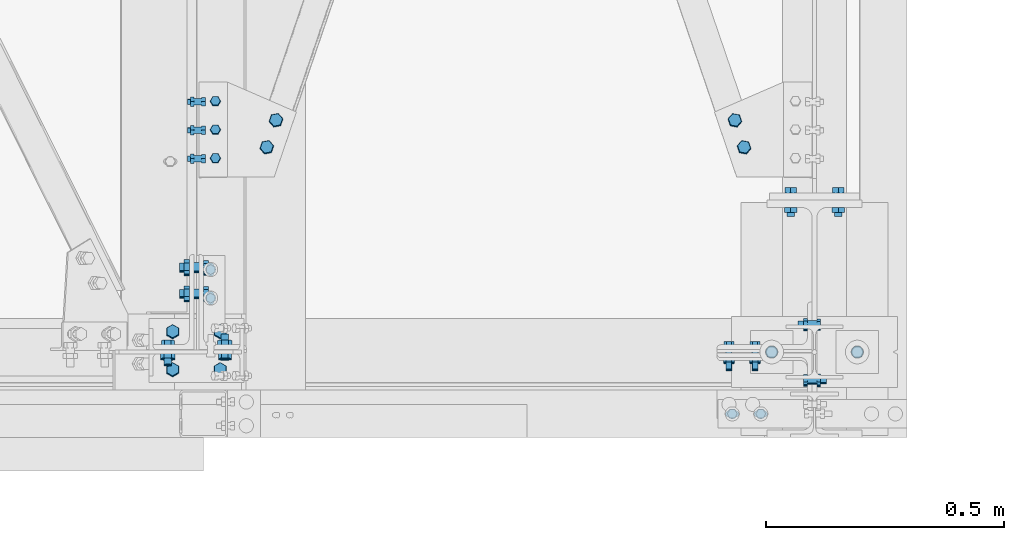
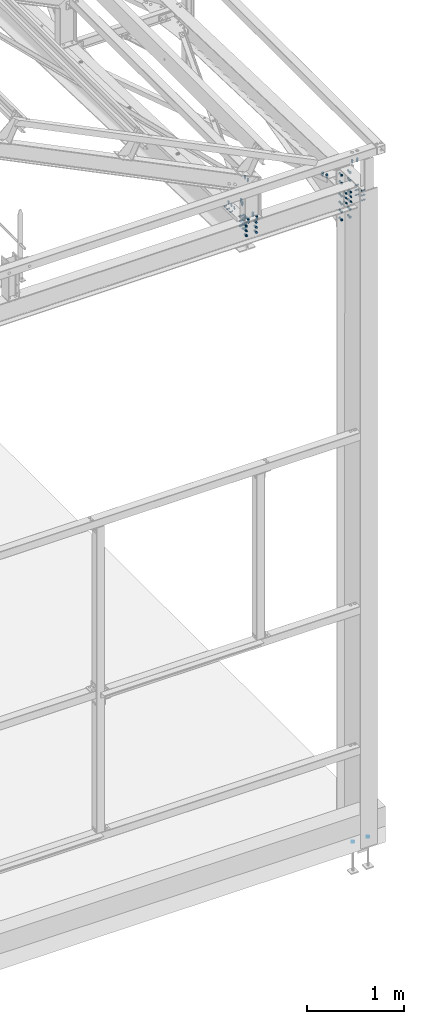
# One storey, part 187 of 362: 15 mechanical fasteners.
"""IFC2X3 building model written with IfcOpenShell, lengths in millimetres."""

from ifc_helpers import new_model, si_unit, frame, frame_2d, origin_with_axes, origin_2d_with_axis, place, context, subcontext, project, spatial, polyline, circle_curve, parameter, trimmed, segment, composite_curve, circle, outline, extrude, source, transform, mapped, material, type_object, element, save


model = new_model("IFC2X3")

# Units and contexts
model_context = context("Model", 3, precision=1e-05, world=origin_with_axes())
body_context = subcontext(model_context, "Body", "Model", "MODEL_VIEW")
ifc_project = project(units=[si_unit("LENGTHUNIT", "METRE", prefix="MILLI"), si_unit("AREAUNIT", "SQUARE_METRE"), si_unit("VOLUMEUNIT", "CUBIC_METRE"), si_unit("MASSUNIT", "GRAM", prefix="KILO"), si_unit("TIMEUNIT", "SECOND"), si_unit("PLANEANGLEUNIT", "RADIAN"), si_unit("SOLIDANGLEUNIT", "STERADIAN"), si_unit("THERMODYNAMICTEMPERATUREUNIT", "DEGREE_CELSIUS"), si_unit("LUMINOUSINTENSITYUNIT", "LUMEN")], contexts=[model_context])

# Site, building, storey
site_placement = place(None, origin_with_axes())
site = spatial("IfcSite", under=ifc_project, at=site_placement, Name="Undefined", CompositionType="ELEMENT")
building_placement = place(site_placement, origin_with_axes())
building = spatial("IfcBuilding", under=site, at=building_placement, Name="Undefined", CompositionType="ELEMENT")
storey_placement = place(building_placement, origin_with_axes())
storey = spatial("IfcBuildingStorey", under=building, at=storey_placement, Name="Undefined", CompositionType="ELEMENT", Elevation=0.0)

# Mechanical fasteners
ifc_material_1 = material(Name="8.8-SB-ZINGUE")
mechanical_fastener_type = type_object("IfcMechanicalFastenerType", Name="Bolt assembly")
shared_shape_1 = source(origin_with_axes(), body_context, "Body", "SweptSolid", [
    extrude(circle(Radius=9.0, at=origin_2d_with_axis()), frame((0.0, -0.100011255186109, 0.0), z_axis=(0.0, 1.0, 0.0), x_axis=(1.0, 0.0, 0.0)), (0.0, 0.0, 1.0), 10.3),
    extrude(circle(Radius=9.0, at=origin_2d_with_axis()), frame((0.0, -9.9, 0.0), z_axis=(0.0, 1.0, 0.0), x_axis=(1.0, 0.0, 0.0)), (0.0, 0.0, 1.0), 10.0),
    extrude(outline(polyline([(13.85640646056, 0.0), (6.92820323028, 12.0000000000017), (-6.92820323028, 12.0000000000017), (-13.85640646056, 0.0), (-6.92820323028, -12.0000000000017), (6.92820323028, -12.0000000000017), (13.85640646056, 0.0)])), frame((0.0, -20.5600000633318, 0.0), z_axis=(0.0, 1.0, 0.0), x_axis=(1.0, 0.0, 0.0)), (0.0, 0.0, 1.0), 10.56),
    extrude(circle(Radius=8.0, at=origin_2d_with_axis()), frame((0.0, -10.0000010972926, 0.0), z_axis=(0.0, 1.0, 0.0), x_axis=(1.0, 0.0, 0.0)), (0.0, 0.0, 1.0), 40.0),
    extrude(outline(polyline([(15.3344231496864, 0.0), (7.6672115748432, 13.2800000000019), (-7.6672115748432, 13.2800000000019), (-15.3344231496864, 0.0), (-7.6672115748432, -13.2800000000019), (7.6672115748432, -13.2800000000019), (15.3344231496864, 0.0)])), frame((0.0, 10.1999997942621, 0.0), z_axis=(0.0, 1.0, 0.0), x_axis=(1.0, 0.0, 0.0)), (0.0, 0.0, 1.0), 10.56),
])
mechanical_fastener_1_placement = place(storey_placement, frame((38330.0, -36.83918650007, 8051.15959178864), z_axis=(-1.0, 0.0, 0.0), x_axis=(3.14103090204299e-11, 0.999506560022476, -0.0314107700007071)))
element("IfcMechanicalFastener", 1, at=mechanical_fastener_1_placement, inside=storey, type_object=mechanical_fastener_type, material=ifc_material_1, Name="Bolt assembly", NominalDiameter=16.0, NominalLength=40.0, context=body_context, shape_type="MappedRepresentation", body=[
    mapped(shared_shape_1, transform((0.0, 0.0, -50.0))),
    mapped(shared_shape_1, transform((79.9999999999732, 9.09494701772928e-13, -50.0))),
    mapped(shared_shape_1, transform((0.0, 0.0, 50.0))),
    mapped(shared_shape_1, transform((79.9999999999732, 9.09494701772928e-13, 50.0))),
])
shared_shape_2 = source(origin_with_axes(), body_context, "Body", "SweptSolid", [
    extrude(circle(Radius=9.0, at=origin_2d_with_axis()), frame((0.0, -8.89871246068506, 0.0), z_axis=(0.0, 1.0, 0.0), x_axis=(1.0, 0.0, 0.0)), (0.0, 0.0, 1.0), 6.0),
    extrude(circle(Radius=9.0, at=origin_2d_with_axis()), frame((0.0, -3.10006822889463, 0.0), z_axis=(0.0, 1.0, 0.0), x_axis=(1.0, 0.0, 0.0)), (0.0, 0.0, 1.0), 6.1),
    extrude(outline(polyline([(13.85640646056, 0.0), (6.92820323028, 12.0000000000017), (-6.92820323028, 12.0000000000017), (-13.85640646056, 0.0), (-6.92820323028, -12.0000000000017), (6.92820323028, -12.0000000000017), (13.85640646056, 0.0)])), frame((0.0, -19.5587124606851, 0.0), z_axis=(0.0, 1.0, 0.0), x_axis=(1.0, 0.0, 0.0)), (0.0, 0.0, 1.0), 10.56),
    extrude(circle(Radius=8.0, at=origin_2d_with_axis()), frame((0.0, -8.99871246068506, 0.0), z_axis=(0.0, 1.0, 0.0), x_axis=(1.0, 0.0, 0.0)), (0.0, 0.0, 1.0), 40.0),
    extrude(outline(polyline([(15.3344231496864, 0.0), (7.6672115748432, 13.2800000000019), (-7.6672115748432, 13.2800000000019), (-15.3344231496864, 0.0), (-7.6672115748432, -13.2800000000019), (7.6672115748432, -13.2800000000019), (15.3344231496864, 0.0)])), frame((0.0, 2.99993177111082, 0.0), z_axis=(0.0, 1.0, 0.0), x_axis=(1.0, 0.0, 0.0)), (0.0, 0.0, 1.0), 10.56),
])
mechanical_fastener_2_placement = place(storey_placement, frame((38478.0953022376, 430.915016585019, 7913.39717348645), z_axis=(-0.946212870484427, 0.323385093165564, -0.0101629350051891), x_axis=(0.323545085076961, 0.945745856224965, -0.0297212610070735)))
element("IfcMechanicalFastener", 2, at=mechanical_fastener_2_placement, inside=storey, type_object=mechanical_fastener_type, material=ifc_material_1, Name="Bolt assembly", NominalDiameter=16.0, NominalLength=40.0, context=body_context, shape_type="MappedRepresentation", body=[
    mapped(shared_shape_2, transform((0.0, 0.0, 0.0))),
    mapped(shared_shape_2, transform((60.0, 0.0, 0.0))),
])
shared_shape_3 = source(origin_with_axes(), body_context, "Body", "SweptSolid", [
    extrude(circle(Radius=7.0, at=origin_2d_with_axis()), frame((0.0, -0.100011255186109, 0.0), z_axis=(0.0, 1.0, 0.0), x_axis=(1.0, 0.0, 0.0)), (0.0, 0.0, 1.0), 6.1),
    extrude(circle(Radius=7.0, at=origin_2d_with_axis()), frame((0.0, -5.9000361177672, 0.0), z_axis=(0.0, 1.0, 0.0), x_axis=(1.0, 0.0, 0.0)), (0.0, 0.0, 1.0), 6.0),
    extrude(outline(polyline([(10.39230484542, 0.0), (5.19615242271, 9.00000000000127), (-5.19615242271, 9.00000000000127), (-10.39230484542, 0.0), (-5.19615242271, -9.00000000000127), (5.19615242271, -9.00000000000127), (10.39230484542, 0.0)])), frame((0.0, -13.9200361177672, 0.0), z_axis=(0.0, 1.0, 0.0), x_axis=(1.0, 0.0, 0.0)), (0.0, 0.0, 1.0), 7.92),
    extrude(circle(Radius=6.0, at=origin_2d_with_axis()), frame((0.0, -6.00003611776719, 0.0), z_axis=(0.0, 1.0, 0.0), x_axis=(1.0, 0.0, 0.0)), (0.0, 0.0, 1.0), 30.0),
    extrude(outline(polyline([(11.5008173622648, 0.0), (5.7504086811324, 9.96000000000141), (-5.7504086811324, 9.96000000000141), (-11.5008173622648, 0.0), (-5.7504086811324, -9.96000000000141), (5.7504086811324, -9.96000000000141), (11.5008173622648, 0.0)])), frame((0.0, 6.0, 0.0), z_axis=(0.0, 1.0, 0.0), x_axis=(1.0, 0.0, 0.0)), (0.0, 0.0, 1.0), 7.92),
])
mechanical_fastener_3_placement = place(storey_placement, frame((38370.0, 467.694968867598, 7909.23976990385), z_axis=(0.0, -0.999506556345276, 0.031410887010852), x_axis=(-1.0, 0.0, 0.0)))
element("IfcMechanicalFastener", 3, at=mechanical_fastener_3_placement, inside=storey, type_object=mechanical_fastener_type, material=ifc_material_1, Name="Bolt assembly", NominalDiameter=12.0, NominalLength=30.0, context=body_context, shape_type="MappedRepresentation", body=[
    mapped(shared_shape_3, transform((0.0, 0.0, -60.0))),
    mapped(shared_shape_3, transform((0.0, 0.0, 0.0))),
    mapped(shared_shape_3, transform((0.0, 0.0, 60.0))),
])
shared_shape_4 = source(origin_with_axes(), body_context, "Body", "SweptSolid", [
    extrude(circle(Radius=9.0, at=origin_2d_with_axis()), frame((0.0, -0.100011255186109, 0.0), z_axis=(0.0, 1.0, 0.0), x_axis=(1.0, 0.0, 0.0)), (0.0, 0.0, 1.0), 16.1),
    extrude(circle(Radius=9.0, at=origin_2d_with_axis()), frame((0.0, -14.899999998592, 0.0), z_axis=(0.0, 1.0, 0.0), x_axis=(1.0, 0.0, 0.0)), (0.0, 0.0, 1.0), 15.0),
    extrude(outline(polyline([(13.85640646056, 0.0), (6.92820323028, 12.0000000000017), (-6.92820323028, 12.0000000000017), (-13.85640646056, 0.0), (-6.92820323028, -12.0000000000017), (6.92820323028, -12.0000000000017), (13.85640646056, 0.0)])), frame((0.0, -25.56, 0.0), z_axis=(0.0, 1.0, 0.0), x_axis=(1.0, 0.0, 0.0)), (0.0, 0.0, 1.0), 10.56),
    extrude(circle(Radius=8.0, at=origin_2d_with_axis()), frame((0.0, -14.999999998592, 0.0), z_axis=(0.0, 1.0, 0.0), x_axis=(1.0, 0.0, 0.0)), (0.0, 0.0, 1.0), 50.0),
    extrude(outline(polyline([(15.3344231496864, 0.0), (7.6672115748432, 13.2800000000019), (-7.6672115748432, 13.2800000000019), (-15.3344231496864, 0.0), (-7.6672115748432, -13.2800000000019), (7.6672115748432, -13.2800000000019), (15.3344231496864, 0.0)])), frame((0.0, 15.9999999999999, 0.0), z_axis=(0.0, 1.0, 0.0), x_axis=(1.0, 0.0, 0.0)), (0.0, 0.0, 1.0), 10.56),
])
mechanical_fastener_4_placement = place(storey_placement, frame((39630.0, 320.0, 7959.93865805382), z_axis=(-1.0, 0.0, 0.0), x_axis=(0.0, 0.0, -1.0)))
element("IfcMechanicalFastener", 4, at=mechanical_fastener_4_placement, inside=storey, type_object=mechanical_fastener_type, material=ifc_material_1, Name="Bolt assembly", NominalDiameter=16.0, NominalLength=50.0, context=body_context, shape_type="MappedRepresentation", body=[
    mapped(shared_shape_4, transform((0.0, 0.0, -50.0))),
    mapped(shared_shape_4, transform((100.0, 0.0, -50.0))),
    mapped(shared_shape_4, transform((260.0, 0.0, -50.0))),
    mapped(shared_shape_4, transform((360.0, 0.0, -50.0))),
    mapped(shared_shape_4, transform((460.0, 0.0, -50.0))),
    mapped(shared_shape_4, transform((560.0, 0.0, -50.0))),
    mapped(shared_shape_4, transform((0.0, 0.0, 50.0))),
    mapped(shared_shape_4, transform((100.0, 0.0, 50.0))),
    mapped(shared_shape_4, transform((260.0, 0.0, 50.0))),
    mapped(shared_shape_4, transform((360.0, 0.0, 50.0))),
    mapped(shared_shape_4, transform((460.0, 0.0, 50.0))),
    mapped(shared_shape_4, transform((560.0, 0.0, 50.0))),
])
shared_shape_5 = source(origin_with_axes(), body_context, "Body", "SweptSolid", [
    extrude(circle(Radius=7.0, at=origin_2d_with_axis()), frame((0.0, -3.89999843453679, 0.0), z_axis=(0.0, 1.0, 0.0), x_axis=(1.0, 0.0, 0.0)), (0.0, 0.0, 1.0), 4.0),
    extrude(outline(composite_curve([segment(polyline([(-7.0, 7.0), (7.0, 7.0)]), True, "CONTINUOUS"), segment(trimmed(circle_curve(frame_2d((7.0, 0.0), x_axis=(0.0, 1.0)), 7.0), [parameter(0.0)], [parameter(3.14159265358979)], False, "PARAMETER"), True, "CONTINUOUS"), segment(polyline([(7.0, -7.0), (-7.0, -7.0)]), True, "CONTINUOUS"), segment(trimmed(circle_curve(frame_2d((-7.0, 0.0), x_axis=(0.0, -1.0)), 7.0), [parameter(0.0)], [parameter(3.14159265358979)], False, "PARAMETER"), True, "DISCONTINUOUS")], self_intersect=False)), frame((0.0, -0.100011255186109, 0.0), z_axis=(0.0, 1.0, 0.0), x_axis=(1.0, 0.0, 0.0)), (0.0, 0.0, 1.0), 10.1),
    extrude(outline(polyline([(10.39230484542, 0.0), (5.19615242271, 9.00000000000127), (-5.19615242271, 9.00000000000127), (-10.39230484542, 0.0), (-5.19615242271, -9.00000000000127), (5.19615242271, -9.00000000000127), (10.39230484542, 0.0)])), frame((0.0, -11.9199984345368, 0.0), z_axis=(0.0, 1.0, 0.0), x_axis=(1.0, 0.0, 0.0)), (0.0, 0.0, 1.0), 7.92),
    extrude(circle(Radius=6.0, at=origin_2d_with_axis()), frame((0.0, -3.99999923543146, 0.0), z_axis=(0.0, 1.0, 0.0), x_axis=(1.0, 0.0, 0.0)), (0.0, 0.0, 1.0), 40.0),
    extrude(circle(Radius=10.8, at=origin_2d_with_axis()), frame((0.0, 10.0000000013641, 0.0), z_axis=(0.0, 1.0, 0.0), x_axis=(1.0, 0.0, 0.0)), (0.0, 0.0, 1.0), 3.96),
    extrude(outline(polyline([(11.5008173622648, 0.0), (5.7504086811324, 9.96000000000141), (-5.7504086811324, 9.96000000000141), (-11.5008173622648, 0.0), (-5.7504086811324, -9.96000000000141), (5.7504086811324, -9.96000000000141), (11.5008173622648, 0.0)])), frame((0.0, 13.96, 0.0), z_axis=(0.0, 1.0, 0.0), x_axis=(1.0, 0.0, 0.0)), (0.0, 0.0, 1.0), 7.92),
])
mechanical_fastener_5_placement = place(storey_placement, frame((39456.9999976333, -130.000005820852, 8450.0), z_axis=(0.0, 1.0, 0.0), x_axis=(1.0, 0.0, 0.0)))
element("IfcMechanicalFastener", 5, at=mechanical_fastener_5_placement, inside=storey, type_object=mechanical_fastener_type, material=ifc_material_1, Name="Bolt assembly", NominalDiameter=12.0, NominalLength=40.0, context=body_context, shape_type="MappedRepresentation", body=[
    mapped(shared_shape_5, transform((0.0, 0.0, 0.0))),
    mapped(shared_shape_5, transform((60.0, 0.0, 0.0))),
])
shared_shape_6 = source(origin_with_axes(), body_context, "Body", "SweptSolid", [
    extrude(circle(Radius=7.0, at=origin_2d_with_axis()), frame((0.0, -3.89999843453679, 0.0), z_axis=(0.0, 1.0, 0.0), x_axis=(1.0, 0.0, 0.0)), (0.0, 0.0, 1.0), 4.0),
    extrude(outline(composite_curve([segment(polyline([(-7.0, 7.0), (7.0, 7.0)]), True, "CONTINUOUS"), segment(trimmed(circle_curve(frame_2d((7.0, 0.0), x_axis=(0.0, 1.0)), 7.0), [parameter(0.0)], [parameter(3.14159265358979)], False, "PARAMETER"), True, "CONTINUOUS"), segment(polyline([(7.0, -7.0), (-7.0, -7.0)]), True, "CONTINUOUS"), segment(trimmed(circle_curve(frame_2d((-7.0, 0.0), x_axis=(0.0, -1.0)), 7.0), [parameter(0.0)], [parameter(3.14159265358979)], False, "PARAMETER"), True, "DISCONTINUOUS")], self_intersect=False)), frame((0.0, -0.100011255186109, 0.0), z_axis=(0.0, 1.0, 0.0), x_axis=(1.0, 0.0, 0.0)), (0.0, 0.0, 1.0), 10.1),
    extrude(outline(polyline([(10.39230484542, 0.0), (5.19615242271, 9.00000000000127), (-5.19615242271, 9.00000000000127), (-10.39230484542, 0.0), (-5.19615242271, -9.00000000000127), (5.19615242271, -9.00000000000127), (10.39230484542, 0.0)])), frame((0.0, -11.9199984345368, 0.0), z_axis=(0.0, 1.0, 0.0), x_axis=(1.0, 0.0, 0.0)), (0.0, 0.0, 1.0), 7.92),
    extrude(circle(Radius=6.0, at=origin_2d_with_axis()), frame((0.0, -3.99999923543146, 0.0), z_axis=(0.0, 1.0, 0.0), x_axis=(1.0, 0.0, 0.0)), (0.0, 0.0, 1.0), 40.0),
    extrude(circle(Radius=10.8, at=origin_2d_with_axis()), frame((0.0, 10.0000000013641, 0.0), z_axis=(0.0, 1.0, 0.0), x_axis=(1.0, 0.0, 0.0)), (0.0, 0.0, 1.0), 3.96),
    extrude(outline(polyline([(11.5008173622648, 0.0), (5.7504086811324, 9.96000000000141), (-5.7504086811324, 9.96000000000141), (-11.5008173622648, 0.0), (-5.7504086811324, -9.96000000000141), (5.7504086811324, -9.96000000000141), (11.5008173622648, 0.0)])), frame((0.0, 13.96, 0.0), z_axis=(0.0, 1.0, 0.0), x_axis=(1.0, 0.0, 0.0)), (0.0, 0.0, 1.0), 7.92),
])
mechanical_fastener_6_placement = place(storey_placement, frame((38360.0, 173.499999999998, 8450.0), z_axis=(1.0, 0.0, 0.0), x_axis=(0.0, -1.0, 0.0)))
element("IfcMechanicalFastener", 6, at=mechanical_fastener_6_placement, inside=storey, type_object=mechanical_fastener_type, material=ifc_material_1, Name="Bolt assembly", NominalDiameter=12.0, NominalLength=40.0, context=body_context, shape_type="MappedRepresentation", body=[
    mapped(shared_shape_6, transform((0.0, 0.0, 0.0))),
    mapped(shared_shape_6, transform((60.0, 0.0, 0.0))),
])
shared_shape_7 = source(origin_with_axes(), body_context, "Body", "SweptSolid", [
    extrude(circle(Radius=9.0, at=origin_2d_with_axis()), frame((0.0, -1.70264052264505, 0.0), z_axis=(0.0, 1.0, 0.0), x_axis=(1.0, 0.0, 0.0)), (0.0, 0.0, 1.0), 6.6),
    extrude(circle(Radius=9.0, at=origin_2d_with_axis()), frame((0.0, 4.89949489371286, 0.0), z_axis=(0.0, 1.0, 0.0), x_axis=(1.0, 0.0, 0.0)), (0.0, 0.0, 1.0), 10.1),
    extrude(outline(polyline([(13.85640646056, 0.0), (6.92820323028, 12.0000000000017), (-6.92820323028, 12.0000000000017), (-13.85640646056, 0.0), (-6.92820323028, -12.0000000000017), (6.92820323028, -12.0000000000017), (13.85640646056, 0.0)])), frame((0.0, -12.362640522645, 0.0), z_axis=(0.0, 1.0, 0.0), x_axis=(1.0, 0.0, 0.0)), (0.0, 0.0, 1.0), 10.56),
    extrude(circle(Radius=8.0, at=origin_2d_with_axis()), frame((0.0, -1.80264052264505, 0.0), z_axis=(0.0, 1.0, 0.0), x_axis=(1.0, 0.0, 0.0)), (0.0, 0.0, 1.0), 40.0),
    extrude(outline(polyline([(15.3344231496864, 0.0), (7.6672115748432, 13.2800000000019), (-7.6672115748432, 13.2800000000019), (-15.3344231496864, 0.0), (-7.6672115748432, -13.2800000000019), (7.6672115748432, -13.2800000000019), (15.3344231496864, 0.0)])), frame((0.0, 14.9994948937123, 0.0), z_axis=(0.0, 1.0, 0.0), x_axis=(1.0, 0.0, 0.0)), (0.0, 0.0, 1.0), 10.56),
])
mechanical_fastener_7_placement = place(storey_placement, frame((38390.0004311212, -2.7530104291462, 7910.02082573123), z_axis=(-1.05403257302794e-09, -0.0314112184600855, -0.999506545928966), x_axis=(-1.0, 0.0, 0.0)))
element("IfcMechanicalFastener", 7, at=mechanical_fastener_7_placement, inside=storey, type_object=mechanical_fastener_type, material=ifc_material_1, Name="Bolt assembly", NominalDiameter=16.0, NominalLength=40.0, context=body_context, shape_type="MappedRepresentation", body=[
    mapped(shared_shape_7, transform((0.0, 0.0, -60.0))),
    mapped(shared_shape_7, transform((0.0, 0.0, 0.0))),
    mapped(shared_shape_7, transform((0.0, 0.0, 60.0))),
])
shared_shape_8 = source(origin_with_axes(), body_context, "Body", "SweptSolid", [
    extrude(circle(Radius=9.0, at=origin_2d_with_axis()), frame((0.0, -3.20027217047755, 0.0), z_axis=(0.0, 1.0, 0.0), x_axis=(1.0, 0.0, 0.0)), (0.0, 0.0, 1.0), 9.4),
    extrude(circle(Radius=9.0, at=origin_2d_with_axis()), frame((0.0, 6.40014264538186, 0.0), z_axis=(0.0, 1.0, 0.0), x_axis=(1.0, 0.0, 0.0)), (0.0, 0.0, 1.0), 10.1),
    extrude(circle(Radius=9.0, at=origin_2d_with_axis()), frame((0.0, -13.4007196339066, 0.0), z_axis=(0.0, 1.0, 0.0), x_axis=(1.0, 0.0, 0.0)), (0.0, 0.0, 1.0), 10.0),
    extrude(outline(polyline([(13.85640646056, 0.0), (6.92820323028, 12.0000000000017), (-6.92820323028, 12.0000000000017), (-13.85640646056, 0.0), (-6.92820323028, -12.0000000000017), (6.92820323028, -12.0000000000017), (13.85640646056, 0.0)])), frame((0.0, -24.0607196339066, 0.0), z_axis=(0.0, 1.0, 0.0), x_axis=(1.0, 0.0, 0.0)), (0.0, 0.0, 1.0), 10.56),
    extrude(circle(Radius=8.0, at=origin_2d_with_axis()), frame((0.0, -13.5007196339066, 0.0), z_axis=(0.0, 1.0, 0.0), x_axis=(1.0, 0.0, 0.0)), (0.0, 0.0, 1.0), 50.0),
    extrude(outline(polyline([(15.3344231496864, 0.0), (7.6672115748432, 13.2800000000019), (-7.6672115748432, 13.2800000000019), (-15.3344231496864, 0.0), (-7.6672115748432, -13.2800000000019), (7.6672115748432, -13.2800000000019), (15.3344231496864, 0.0)])), frame((0.0, 16.5001426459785, 0.0), z_axis=(0.0, 1.0, 0.0), x_axis=(1.0, 0.0, 0.0)), (0.0, 0.0, 1.0), 10.56),
])
mechanical_fastener_8_placement = place(storey_placement, frame((38331.4997282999, 177.157665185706, 7904.36689237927), z_axis=(-1.05403257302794e-09, -0.0314112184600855, -0.999506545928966), x_axis=(-1.08680000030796e-05, -0.999506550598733, 0.0314110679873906)))
element("IfcMechanicalFastener", 8, at=mechanical_fastener_8_placement, inside=storey, type_object=mechanical_fastener_type, material=ifc_material_1, Name="Bolt assembly", NominalDiameter=16.0, NominalLength=50.0, context=body_context, shape_type="MappedRepresentation", body=[
    mapped(shared_shape_8, transform((0.0, 0.0, -60.0))),
    mapped(shared_shape_8, transform((55.0000000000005, -2.47382558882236e-10, -59.9999999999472))),
    mapped(shared_shape_8, transform((0.0, 0.0, 0.0))),
    mapped(shared_shape_8, transform((55.0000000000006, -1.81898940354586e-10, 0.0))),
    mapped(shared_shape_8, transform((0.0, 0.0, 60.0))),
    mapped(shared_shape_8, transform((55.0000000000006, -1.01863406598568e-10, 59.9999999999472))),
])
shared_shape_9 = source(origin_with_axes(), body_context, "Body", "SweptSolid", [
    extrude(circle(Radius=9.0, at=origin_2d_with_axis()), frame((0.0, -4.89735938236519, 0.0), z_axis=(0.0, 1.0, 0.0), x_axis=(1.0, 0.0, 0.0)), (0.0, 0.0, 1.0), 6.7),
    extrude(circle(Radius=9.0, at=origin_2d_with_axis()), frame((0.0, -14.8994948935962, 0.0), z_axis=(0.0, 1.0, 0.0), x_axis=(1.0, 0.0, 0.0)), (0.0, 0.0, 1.0), 10.0),
    extrude(outline(polyline([(13.85640646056, 0.0), (6.92820323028, 12.0000000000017), (-6.92820323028, 12.0000000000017), (-13.85640646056, 0.0), (-6.92820323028, -12.0000000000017), (6.92820323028, -12.0000000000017), (13.85640646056, 0.0)])), frame((0.0, -25.5594948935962, 0.0), z_axis=(0.0, 1.0, 0.0), x_axis=(1.0, 0.0, 0.0)), (0.0, 0.0, 1.0), 10.56),
    extrude(circle(Radius=8.0, at=origin_2d_with_axis()), frame((0.0, -14.9994948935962, 0.0), z_axis=(0.0, 1.0, 0.0), x_axis=(1.0, 0.0, 0.0)), (0.0, 0.0, 1.0), 40.0),
    extrude(outline(polyline([(15.3344231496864, 0.0), (7.6672115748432, 13.2800000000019), (-7.6672115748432, 13.2800000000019), (-15.3344231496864, 0.0), (-7.6672115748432, -13.2800000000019), (7.6672115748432, -13.2800000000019), (15.3344231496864, 0.0)])), frame((0.0, 1.80264052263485, 0.0), z_axis=(0.0, 1.0, 0.0), x_axis=(1.0, 0.0, 0.0)), (0.0, 0.0, 1.0), 10.56),
])
mechanical_fastener_9_placement = place(storey_placement, frame((38269.9995688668, -2.75300989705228, 7910.02084266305), z_axis=(-1.05403257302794e-09, -0.0314112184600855, -0.999506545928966), x_axis=(1.0, 0.0, 0.0)))
element("IfcMechanicalFastener", 9, at=mechanical_fastener_9_placement, inside=storey, type_object=mechanical_fastener_type, material=ifc_material_1, Name="Bolt assembly", NominalDiameter=16.0, NominalLength=40.0, context=body_context, shape_type="MappedRepresentation", body=[
    mapped(shared_shape_9, transform((0.0, 0.0, -60.0))),
    mapped(shared_shape_9, transform((0.0, 0.0, 0.0))),
    mapped(shared_shape_9, transform((0.0, 0.0, 60.0))),
])
shared_shape_10 = source(origin_with_axes(), body_context, "Body", "SweptSolid", [
    extrude(circle(Radius=9.0, at=origin_2d_with_axis()), frame((0.0, 2.90122978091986, 0.0), z_axis=(0.0, 1.0, 0.0), x_axis=(1.0, 0.0, 0.0)), (0.0, 0.0, 1.0), 6.1),
    extrude(circle(Radius=9.0, at=origin_2d_with_axis()), frame((0.0, -2.90010483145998, 0.0), z_axis=(0.0, 1.0, 0.0), x_axis=(1.0, 0.0, 0.0)), (0.0, 0.0, 1.0), 6.0),
    extrude(outline(polyline([(13.85640646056, 0.0), (6.92820323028, 12.0000000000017), (-6.92820323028, 12.0000000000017), (-13.85640646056, 0.0), (-6.92820323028, -12.0000000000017), (6.92820323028, -12.0000000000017), (13.85640646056, 0.0)])), frame((0.0, -13.5600682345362, 0.0), z_axis=(0.0, 1.0, 0.0), x_axis=(1.0, 0.0, 0.0)), (0.0, 0.0, 1.0), 10.56),
    extrude(circle(Radius=8.0, at=origin_2d_with_axis()), frame((0.0, -3.00010487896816, 0.0), z_axis=(0.0, 1.0, 0.0), x_axis=(1.0, 0.0, 0.0)), (0.0, 0.0, 1.0), 40.0),
    extrude(outline(polyline([(15.3344231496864, 0.0), (7.6672115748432, 13.2800000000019), (-7.6672115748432, 13.2800000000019), (-15.3344231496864, 0.0), (-7.6672115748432, -13.2800000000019), (7.6672115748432, -13.2800000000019), (15.3344231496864, 0.0)])), frame((0.0, 9.00122978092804, 0.0), z_axis=(0.0, 1.0, 0.0), x_axis=(1.0, 0.0, 0.0)), (0.0, 0.0, 1.0), 10.56),
])
mechanical_fastener_10_placement = place(storey_placement, frame((39481.9046977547, 430.915016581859, 7913.39717348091), z_axis=(-0.94621275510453, -0.323385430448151, 0.0101629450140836), x_axis=(-0.323544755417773, 0.945745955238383, -0.0297216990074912)))
element("IfcMechanicalFastener", 10, at=mechanical_fastener_10_placement, inside=storey, type_object=mechanical_fastener_type, material=ifc_material_1, Name="Bolt assembly", NominalDiameter=16.0, NominalLength=40.0, context=body_context, shape_type="MappedRepresentation", body=[
    mapped(shared_shape_10, transform((0.0, 0.0, 0.0))),
    mapped(shared_shape_10, transform((60.0, 0.0, 0.0))),
])
shared_shape_11 = source(origin_with_axes(), body_context, "Body", "SweptSolid", [
    extrude(circle(Radius=7.0, at=origin_2d_with_axis()), frame((0.0, -4.79999988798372, 0.0), z_axis=(0.0, 1.0, 0.0), x_axis=(1.0, 0.0, 0.0)), (0.0, 0.0, 1.0), 9.5),
    extrude(circle(Radius=7.0, at=origin_2d_with_axis()), frame((0.0, -10.9000000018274, 0.0), z_axis=(0.0, 1.0, 0.0), x_axis=(1.0, 0.0, 0.0)), (0.0, 0.0, 1.0), 6.0),
    extrude(outline(polyline([(10.39230484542, 0.0), (5.19615242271, 9.00000000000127), (-5.19615242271, 9.00000000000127), (-10.39230484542, 0.0), (-5.19615242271, -9.00000000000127), (5.19615242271, -9.00000000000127), (10.39230484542, 0.0)])), frame((0.0, -18.9200000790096, 0.0), z_axis=(0.0, 1.0, 0.0), x_axis=(1.0, 0.0, 0.0)), (0.0, 0.0, 1.0), 7.92),
    extrude(circle(Radius=6.0, at=origin_2d_with_axis()), frame((0.0, -11.0000000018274, 0.0), z_axis=(0.0, 1.0, 0.0), x_axis=(1.0, 0.0, 0.0)), (0.0, 0.0, 1.0), 30.0),
    extrude(outline(polyline([(11.5008173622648, 0.0), (5.7504086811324, 9.96000000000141), (-5.7504086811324, 9.96000000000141), (-11.5008173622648, 0.0), (-5.7504086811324, -9.96000000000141), (5.7504086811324, -9.96000000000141), (11.5008173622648, 0.0)])), frame((0.0, 4.69999973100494, 0.0), z_axis=(0.0, 1.0, 0.0), x_axis=(1.0, 0.0, 0.0)), (0.0, 0.0, 1.0), 7.92),
])
mechanical_fastener_11_placement = place(storey_placement, frame((38329.9999999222, 466.59559229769, 7874.25704031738), z_axis=(0.0, -0.999506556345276, 0.031410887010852), x_axis=(7.58071938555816e-11, 0.0314107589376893, 0.999506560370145)))
element("IfcMechanicalFastener", 11, at=mechanical_fastener_11_placement, inside=storey, type_object=mechanical_fastener_type, material=ifc_material_1, Name="Bolt assembly", NominalDiameter=12.0, NominalLength=30.0, context=body_context, shape_type="MappedRepresentation", body=[
    mapped(shared_shape_11, transform((0.0, 0.0, -60.0))),
    mapped(shared_shape_11, transform((0.0, 0.0, 0.0))),
    mapped(shared_shape_11, transform((0.0, 0.0, 60.0))),
])
shared_shape_12 = source(origin_with_axes(), body_context, "Body", "SweptSolid", [
    extrude(circle(Radius=7.0, at=origin_2d_with_axis()), frame((0.0, -5.19737787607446, 0.0), z_axis=(0.0, 1.0, 0.0), x_axis=(1.0, 0.0, 0.0)), (0.0, 0.0, 1.0), 10.3),
    extrude(circle(Radius=7.0, at=origin_2d_with_axis()), frame((0.0, -14.8994948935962, 0.0), z_axis=(0.0, 1.0, 0.0), x_axis=(1.0, 0.0, 0.0)), (0.0, 0.0, 1.0), 10.0),
    extrude(outline(polyline([(10.39230484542, 0.0), (5.19615242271, 9.00000000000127), (-5.19615242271, 9.00000000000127), (-10.39230484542, 0.0), (-5.19615242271, -9.00000000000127), (5.19615242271, -9.00000000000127), (10.39230484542, 0.0)])), frame((0.0, -22.9194948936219, 0.0), z_axis=(0.0, 1.0, 0.0), x_axis=(1.0, 0.0, 0.0)), (0.0, 0.0, 1.0), 7.92),
    extrude(circle(Radius=6.0, at=origin_2d_with_axis()), frame((0.0, -14.9994948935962, 0.0), z_axis=(0.0, 1.0, 0.0), x_axis=(1.0, 0.0, 0.0)), (0.0, 0.0, 1.0), 40.0),
    extrude(outline(polyline([(11.5008173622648, 0.0), (5.7504086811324, 9.96000000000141), (-5.7504086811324, 9.96000000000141), (-11.5008173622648, 0.0), (-5.7504086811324, -9.96000000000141), (5.7504086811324, -9.96000000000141), (11.5008173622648, 0.0)])), frame((0.0, 5.10262193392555, 0.0), z_axis=(0.0, 1.0, 0.0), x_axis=(1.0, 0.0, 0.0)), (0.0, 0.0, 1.0), 7.92),
])
mechanical_fastener_12_placement = place(storey_placement, frame((39629.9973506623, -59.7298450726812, 7911.81140524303), z_axis=(-1.05403257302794e-09, -0.0314112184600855, -0.999506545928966), x_axis=(3.14103090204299e-11, 0.999506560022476, -0.0314107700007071)))
element("IfcMechanicalFastener", 12, at=mechanical_fastener_12_placement, inside=storey, type_object=mechanical_fastener_type, material=ifc_material_1, Name="Bolt assembly", NominalDiameter=12.0, NominalLength=40.0, context=body_context, shape_type="MappedRepresentation", body=[
    mapped(shared_shape_12, transform((0.0, 0.0, -60.0))),
    mapped(shared_shape_12, transform((0.0, 0.0, 0.0))),
    mapped(shared_shape_12, transform((0.0, 0.0, 60.0))),
])
shared_shape_13 = source(origin_with_axes(), body_context, "Body", "SweptSolid", [
    extrude(circle(Radius=7.0, at=origin_2d_with_axis()), frame((0.0, -5.00262066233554, 0.0), z_axis=(0.0, 1.0, 0.0), x_axis=(1.0, 0.0, 0.0)), (0.0, 0.0, 1.0), 10.2),
    extrude(circle(Radius=7.0, at=origin_2d_with_axis()), frame((0.0, 4.89949489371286, 0.0), z_axis=(0.0, 1.0, 0.0), x_axis=(1.0, 0.0, 0.0)), (0.0, 0.0, 1.0), 10.1),
    extrude(outline(polyline([(10.39230484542, 0.0), (5.19615242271, 9.00000000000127), (-5.19615242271, 9.00000000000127), (-10.39230484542, 0.0), (-5.19615242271, -9.00000000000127), (5.19615242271, -9.00000000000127), (10.39230484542, 0.0)])), frame((0.0, -13.0226206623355, 0.0), z_axis=(0.0, 1.0, 0.0), x_axis=(1.0, 0.0, 0.0)), (0.0, 0.0, 1.0), 7.92),
    extrude(circle(Radius=6.0, at=origin_2d_with_axis()), frame((0.0, -5.10262066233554, 0.0), z_axis=(0.0, 1.0, 0.0), x_axis=(1.0, 0.0, 0.0)), (0.0, 0.0, 1.0), 40.0),
    extrude(outline(polyline([(11.5008173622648, 0.0), (5.7504086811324, 9.96000000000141), (-5.7504086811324, 9.96000000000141), (-11.5008173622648, 0.0), (-5.7504086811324, -9.96000000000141), (5.7504086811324, -9.96000000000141), (11.5008173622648, 0.0)])), frame((0.0, 14.9994948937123, 0.0), z_axis=(0.0, 1.0, 0.0), x_axis=(1.0, 0.0, 0.0)), (0.0, 0.0, 1.0), 7.92),
])
mechanical_fastener_13_placement = place(storey_placement, frame((39629.9973506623, 57.2132837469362, 7908.13630113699), z_axis=(-1.05403257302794e-09, -0.0314112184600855, -0.999506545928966), x_axis=(0.0, -0.999506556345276, 0.031410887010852)))
element("IfcMechanicalFastener", 13, at=mechanical_fastener_13_placement, inside=storey, type_object=mechanical_fastener_type, material=ifc_material_1, Name="Bolt assembly", NominalDiameter=12.0, NominalLength=40.0, context=body_context, shape_type="MappedRepresentation", body=[
    mapped(shared_shape_13, transform((0.0, 0.0, -60.0))),
    mapped(shared_shape_13, transform((0.0, 0.0, 0.0))),
    mapped(shared_shape_13, transform((0.0, 0.0, 60.0))),
])
shared_shape_14 = source(origin_with_axes(), body_context, "Body", "SweptSolid", [
    extrude(circle(Radius=7.0, at=origin_2d_with_axis()), frame((0.0, -3.30214320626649, 0.0), z_axis=(0.0, 1.0, 0.0), x_axis=(1.0, 0.0, 0.0)), (0.0, 0.0, 1.0), 6.6),
    extrude(circle(Radius=7.0, at=origin_2d_with_axis()), frame((0.0, -13.4007196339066, 0.0), z_axis=(0.0, 1.0, 0.0), x_axis=(1.0, 0.0, 0.0)), (0.0, 0.0, 1.0), 10.0),
    extrude(circle(Radius=7.0, at=origin_2d_with_axis()), frame((0.0, 3.40017014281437, 0.0), z_axis=(0.0, 1.0, 0.0), x_axis=(1.0, 0.0, 0.0)), (0.0, 0.0, 1.0), 10.1),
    extrude(outline(polyline([(10.39230484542, 0.0), (5.19615242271, 9.00000000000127), (-5.19615242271, 9.00000000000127), (-10.39230484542, 0.0), (-5.19615242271, -9.00000000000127), (5.19615242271, -9.00000000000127), (10.39230484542, 0.0)])), frame((0.0, -21.4206921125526, 0.0), z_axis=(0.0, 1.0, 0.0), x_axis=(1.0, 0.0, 0.0)), (0.0, 0.0, 1.0), 7.92),
    extrude(circle(Radius=6.0, at=origin_2d_with_axis()), frame((0.0, -13.5007196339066, 0.0), z_axis=(0.0, 1.0, 0.0), x_axis=(1.0, 0.0, 0.0)), (0.0, 0.0, 1.0), 50.0),
    extrude(outline(polyline([(11.5008173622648, 0.0), (5.7504086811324, 9.96000000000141), (-5.7504086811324, 9.96000000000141), (-11.5008173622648, 0.0), (-5.7504086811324, -9.96000000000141), (5.7504086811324, -9.96000000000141), (11.5008173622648, 0.0)])), frame((0.0, 13.5001701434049, 0.0), z_axis=(0.0, 1.0, 0.0), x_axis=(1.0, 0.0, 0.0)), (0.0, 0.0, 1.0), 7.92),
])
mechanical_fastener_14_placement = place(storey_placement, frame((39449.997855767, -1.25855220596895, 7909.97386260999), z_axis=(-1.05403257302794e-09, -0.0314112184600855, -0.999506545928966), x_axis=(0.999999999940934, -1.08559999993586e-05, 5.27999997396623e-07)))
element("IfcMechanicalFastener", 14, at=mechanical_fastener_14_placement, inside=storey, type_object=mechanical_fastener_type, material=ifc_material_1, Name="Bolt assembly", NominalDiameter=12.0, NominalLength=50.0, context=body_context, shape_type="MappedRepresentation", body=[
    mapped(shared_shape_14, transform((0.0, 0.0, -60.0))),
    mapped(shared_shape_14, transform((55.0000000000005, -2.47382558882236e-10, -59.9999999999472))),
    mapped(shared_shape_14, transform((0.0, 0.0, 0.0))),
    mapped(shared_shape_14, transform((55.0000000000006, -1.81898940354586e-10, 0.0))),
    mapped(shared_shape_14, transform((0.0, 0.0, 60.0))),
    mapped(shared_shape_14, transform((55.0000000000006, -1.01863406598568e-10, 59.9999999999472))),
])
ifc_material_2 = material(Name="6.8")
shared_shape_15 = source(origin_with_axes(), body_context, "Body", "SweptSolid", [
    extrude(circle(Radius=13.0, at=origin_2d_with_axis()), frame((0.0, 0.0, 0.0), z_axis=(0.0, 1.0, 0.0), x_axis=(1.0, 0.0, 0.0)), (0.0, 0.0, 1.0), 10.1),
])
mechanical_fastener_15_placement = place(storey_placement, frame((39630.0000000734, 0.0, -200.0), z_axis=(-1.0, 0.0, 0.0), x_axis=(0.0, 1.0, 0.0)))
element("IfcMechanicalFastener", 15, at=mechanical_fastener_15_placement, inside=storey, type_object=mechanical_fastener_type, material=ifc_material_2, Name="Bolt assembly", NominalDiameter=24.0, NominalLength=10.0, context=body_context, shape_type="MappedRepresentation", body=[
    mapped(shared_shape_15, transform((-8.00355337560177e-11, 1.57342583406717e-10, -90.000000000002))),
    mapped(shared_shape_15, transform((8.36735125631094e-11, -1.5825207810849e-10, 90.0))),
])

save(model, "model.ifc")
